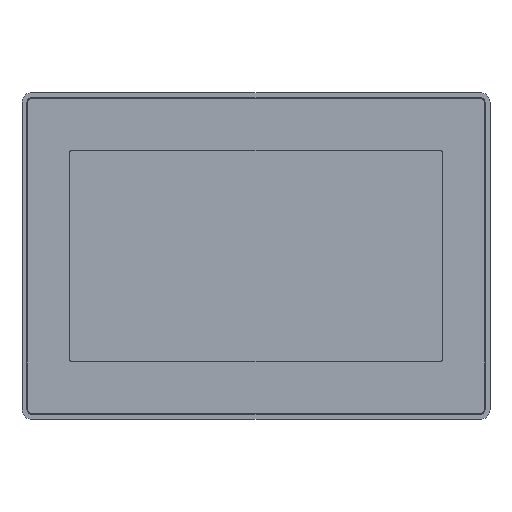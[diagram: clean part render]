
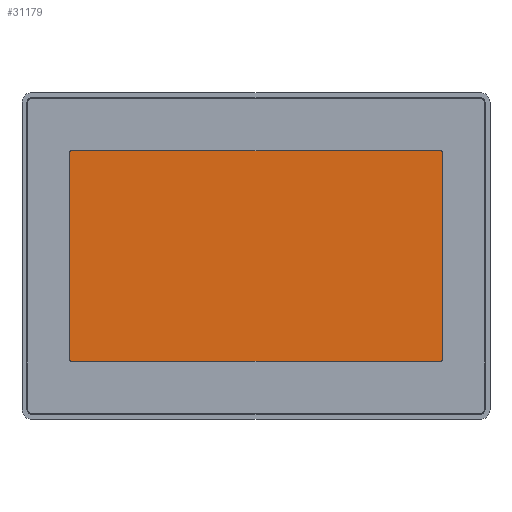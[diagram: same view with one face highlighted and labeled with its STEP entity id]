
A CAD part, top view. The second image highlights one B-rep face of the part: STEP entity #31179.
In plain terms, the highlighted planar face has unit normal (0, 0, 1).
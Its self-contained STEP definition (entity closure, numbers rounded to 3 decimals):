
#1441 = VECTOR ( 'NONE', #15804, 1000. ) ;
#1554 = EDGE_CURVE ( 'NONE', #23696, #5170, #43688, .T. ) ;
#2589 = DIRECTION ( 'NONE',  ( 1., 0., 0. ) ) ;
#4941 = CARTESIAN_POINT ( 'NONE',  ( -112.26, 63.54, -0.351 ) ) ;
#4977 = CARTESIAN_POINT ( 'NONE',  ( -112.26, -63.54, -0.351 ) ) ;
#5170 = VERTEX_POINT ( 'NONE', #5946 ) ;
#5946 = CARTESIAN_POINT ( 'NONE',  ( 112.26, 63.54, -0.351 ) ) ;
#8582 = EDGE_CURVE ( 'NONE', #9018, #20009, #44422, .T. ) ;
#9018 = VERTEX_POINT ( 'NONE', #40551 ) ;
#13471 = PLANE ( 'NONE',  #24366 ) ;
#15804 = DIRECTION ( 'NONE',  ( 1., 0., 0. ) ) ;
#15938 = DIRECTION ( 'NONE',  ( 0., -1., 0. ) ) ;
#16241 = ORIENTED_EDGE ( 'NONE', *, *, #26090, .T. ) ;
#19311 = CARTESIAN_POINT ( 'NONE',  ( 112.26, -63.54, -0.351 ) ) ;
#20009 = VERTEX_POINT ( 'NONE', #4977 ) ;
#20222 = DIRECTION ( 'NONE',  ( -1., 0., 0. ) ) ;
#20256 = EDGE_LOOP ( 'NONE', ( #36555, #41511, #27970, #16241 ) ) ;
#21969 = VECTOR ( 'NONE', #20222, 1000. ) ;
#23151 = CARTESIAN_POINT ( 'NONE',  ( -112.26, -63.54, -0.351 ) ) ;
#23696 = VERTEX_POINT ( 'NONE', #19311 ) ;
#24310 = CARTESIAN_POINT ( 'NONE',  ( -112.26, -63.54, -0.351 ) ) ;
#24366 = AXIS2_PLACEMENT_3D ( 'NONE', #24310, #24450, #2589 ) ;
#24450 = DIRECTION ( 'NONE',  ( 0., 0., 1. ) ) ;
#26090 = EDGE_CURVE ( 'NONE', #20009, #23696, #29364, .T. ) ;
#27970 = ORIENTED_EDGE ( 'NONE', *, *, #8582, .T. ) ;
#29364 = LINE ( 'NONE', #23151, #1441 ) ;
#31179 = ADVANCED_FACE ( 'NONE', ( #41666 ), #13471, .T. ) ;
#34013 = VECTOR ( 'NONE', #39629, 1000. ) ;
#34800 = VECTOR ( 'NONE', #15938, 1000. ) ;
#36555 = ORIENTED_EDGE ( 'NONE', *, *, #1554, .T. ) ;
#36893 = EDGE_CURVE ( 'NONE', #5170, #9018, #40181, .T. ) ;
#39629 = DIRECTION ( 'NONE',  ( 0., 1., 0. ) ) ;
#40181 = LINE ( 'NONE', #45663, #21969 ) ;
#40551 = CARTESIAN_POINT ( 'NONE',  ( -112.26, 63.54, -0.351 ) ) ;
#41511 = ORIENTED_EDGE ( 'NONE', *, *, #36893, .T. ) ;
#41666 = FACE_OUTER_BOUND ( 'NONE', #20256, .T. ) ;
#43273 = CARTESIAN_POINT ( 'NONE',  ( 112.26, 63.54, -0.351 ) ) ;
#43688 = LINE ( 'NONE', #43273, #34013 ) ;
#44422 = LINE ( 'NONE', #4941, #34800 ) ;
#45663 = CARTESIAN_POINT ( 'NONE',  ( -112.26, 63.54, -0.351 ) ) ;
